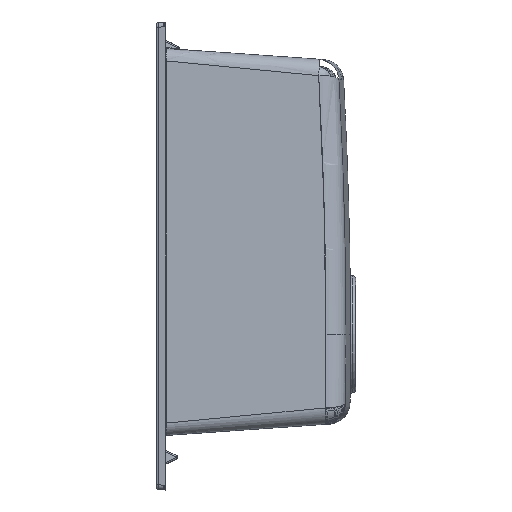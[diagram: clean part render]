
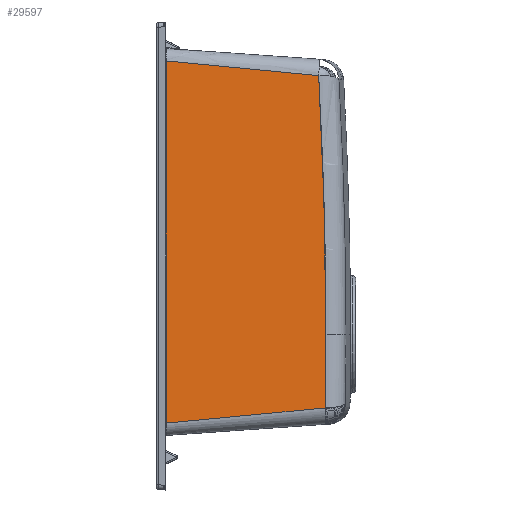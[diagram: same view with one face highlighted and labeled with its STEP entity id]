
A CAD part, left-side view. The second image highlights one B-rep face of the part: STEP entity #29597.
In plain terms, the highlighted planar face has unit normal (-0.998, -0.07, 0).
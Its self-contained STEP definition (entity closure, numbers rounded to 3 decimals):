
#29533=CARTESIAN_POINT('Axis2P3D Location',(27.019,-0.558,-435.)) ;
#29538=CARTESIAN_POINT('Line Origine',(33.44,-92.383,-48.866)) ;
#29542=CARTESIAN_POINT('Vertex',(27.74,-10.86,-40.992)) ;
#29544=CARTESIAN_POINT('Vertex',(39.141,-173.905,-56.74)) ;
#29547=CARTESIAN_POINT('Line Origine',(27.74,-10.86,-235.005)) ;
#29551=CARTESIAN_POINT('Vertex',(27.74,-10.86,-429.019)) ;
#29554=CARTESIAN_POINT('Line Origine',(33.683,-95.857,-420.895)) ;
#29558=CARTESIAN_POINT('Vertex',(39.627,-180.854,-412.771)) ;
#29562=CARTESIAN_POINT('Control Point',(39.638,-181.014,-412.753)) ;
#29563=CARTESIAN_POINT('Control Point',(39.636,-180.982,-412.757)) ;
#29564=CARTESIAN_POINT('Control Point',(39.634,-180.95,-412.761)) ;
#29565=CARTESIAN_POINT('Control Point',(39.631,-180.918,-412.765)) ;
#29566=CARTESIAN_POINT('Control Point',(39.629,-180.886,-412.768)) ;
#29567=CARTESIAN_POINT('Control Point',(39.627,-180.854,-412.771)) ;
#29568=CARTESIAN_POINT('Vertex',(39.638,-181.014,-412.753)) ;
#29572=CARTESIAN_POINT('Control Point',(39.682,-181.642,-333.8)) ;
#29573=CARTESIAN_POINT('Control Point',(39.682,-181.642,-349.591)) ;
#29574=CARTESIAN_POINT('Control Point',(39.678,-181.579,-365.382)) ;
#29575=CARTESIAN_POINT('Control Point',(39.669,-181.454,-381.174)) ;
#29576=CARTESIAN_POINT('Control Point',(39.656,-181.265,-396.964)) ;
#29577=CARTESIAN_POINT('Control Point',(39.638,-181.014,-412.753)) ;
#29578=CARTESIAN_POINT('Vertex',(39.682,-181.642,-333.8)) ;
#29582=CARTESIAN_POINT('Control Point',(39.141,-173.905,-56.74)) ;
#29583=CARTESIAN_POINT('Control Point',(39.357,-176.999,-112.094)) ;
#29584=CARTESIAN_POINT('Control Point',(39.52,-179.32,-167.491)) ;
#29585=CARTESIAN_POINT('Control Point',(39.628,-180.868,-222.918)) ;
#29586=CARTESIAN_POINT('Control Point',(39.682,-181.642,-278.359)) ;
#29587=CARTESIAN_POINT('Control Point',(39.682,-181.642,-333.8)) ;
#29534=DIRECTION('Axis2P3D Direction',(-0.998,-0.07,0.)) ;
#29535=DIRECTION('Axis2P3D XDirection',(0.07,-0.998,0.)) ;
#29539=DIRECTION('Vector Direction',(0.069,-0.993,-0.096)) ;
#29548=DIRECTION('Vector Direction',(0.,0.,-1.)) ;
#29555=DIRECTION('Vector Direction',(-0.069,0.993,-0.095)) ;
#29536=AXIS2_PLACEMENT_3D('Plane Axis2P3D',#29533,#29534,#29535) ;
#29590=ORIENTED_EDGE('',*,*,#29546,.F.) ;
#29591=ORIENTED_EDGE('',*,*,#29553,.T.) ;
#29592=ORIENTED_EDGE('',*,*,#29560,.F.) ;
#29593=ORIENTED_EDGE('',*,*,#29570,.F.) ;
#29594=ORIENTED_EDGE('',*,*,#29580,.F.) ;
#29595=ORIENTED_EDGE('',*,*,#29588,.F.) ;
#29540=VECTOR('Line Direction',#29539,1.) ;
#29549=VECTOR('Line Direction',#29548,1.) ;
#29556=VECTOR('Line Direction',#29555,1.) ;
#29597=ADVANCED_FACE('NONE',(#29596),#29537,.T.) ;
#29561=B_SPLINE_CURVE_WITH_KNOTS('',5,(#29562,#29563,#29564,#29565,#29566,#29567),.UNSPECIFIED.,.F.,.U.,(6,6),(0.,0.229),.UNSPECIFIED.) ;
#29571=B_SPLINE_CURVE_WITH_KNOTS('',5,(#29572,#29573,#29574,#29575,#29576,#29577),.UNSPECIFIED.,.F.,.U.,(6,6),(0.,111.661),.UNSPECIFIED.) ;
#29581=B_SPLINE_CURVE_WITH_KNOTS('',5,(#29582,#29583,#29584,#29585,#29586,#29587),.UNSPECIFIED.,.F.,.U.,(6,6),(0.,392.027),.UNSPECIFIED.) ;
#29546=EDGE_CURVE('',#29543,#29545,#29541,.T.) ;
#29553=EDGE_CURVE('',#29543,#29552,#29550,.T.) ;
#29560=EDGE_CURVE('',#29559,#29552,#29557,.T.) ;
#29570=EDGE_CURVE('',#29569,#29559,#29561,.T.) ;
#29580=EDGE_CURVE('',#29579,#29569,#29571,.T.) ;
#29588=EDGE_CURVE('',#29545,#29579,#29581,.T.) ;
#29589=EDGE_LOOP('',(#29590,#29591,#29592,#29593,#29594,#29595)) ;
#29596=FACE_OUTER_BOUND('',#29589,.T.) ;
#29541=LINE('Line',#29538,#29540) ;
#29550=LINE('Line',#29547,#29549) ;
#29557=LINE('Line',#29554,#29556) ;
#29537=PLANE('',#29536) ;
#29543=VERTEX_POINT('',#29542) ;
#29545=VERTEX_POINT('',#29544) ;
#29552=VERTEX_POINT('',#29551) ;
#29559=VERTEX_POINT('',#29558) ;
#29569=VERTEX_POINT('',#29568) ;
#29579=VERTEX_POINT('',#29578) ;
